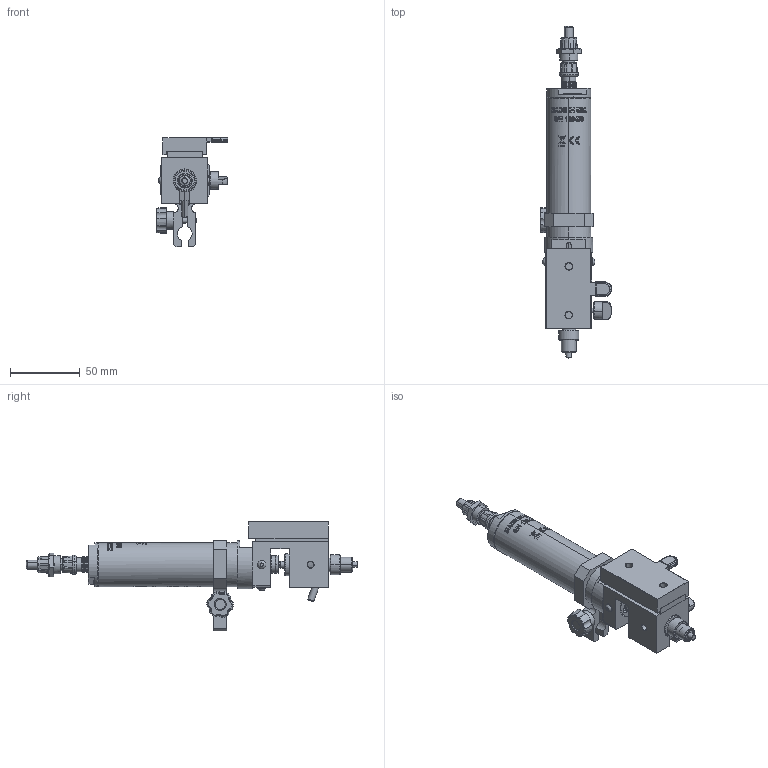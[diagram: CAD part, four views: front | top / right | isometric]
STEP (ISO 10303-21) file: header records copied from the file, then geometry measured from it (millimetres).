
FILE_DESCRIPTION(('FreeCAD Model'),'2;1');
FILE_NAME('C:/Users/martin.stroffek/Desktop/794TC/NORDSONEFD-7363512_VALVE AUGER HF 794-TC BRUSH.step','2019-09-26T12:39:35',('Author'),(''), 'Open CASCADE STEP processor 7.2','FreeCAD','Unknown');
FILE_SCHEMA(('AUTOMOTIVE_DESIGN { 1 0 10303 214 1 1 1 1 }'));
Products named in the file (1): NORDSONEFD-7363512_VALVE_AUGER_HF_794-TC_BRUSH
Bounding box: 51.52 x 238.37 x 78.96 mm (x, y, z)
Volume: 171972.9 mm3; surface area: 58766.9 mm2
Topology: 1 solids, 10 shells, 1724 faces, 4472 edges, 2891 vertices
Faces by surface type: plane 720, bspline 380, cylinder 380, cone 194, torus 47, sphere 3
Entity records: 190335 total; most frequent: CARTESIAN_POINT 106988, DIRECTION 13492, ORIENTED_EDGE 8940, PCURVE 8940, DEFINITIONAL_REPRESENTATION 8940, LINE 8236, VECTOR 8236, EDGE_CURVE 4470
